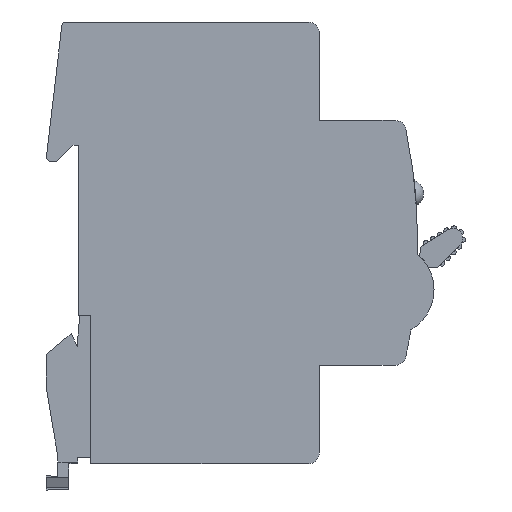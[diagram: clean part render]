
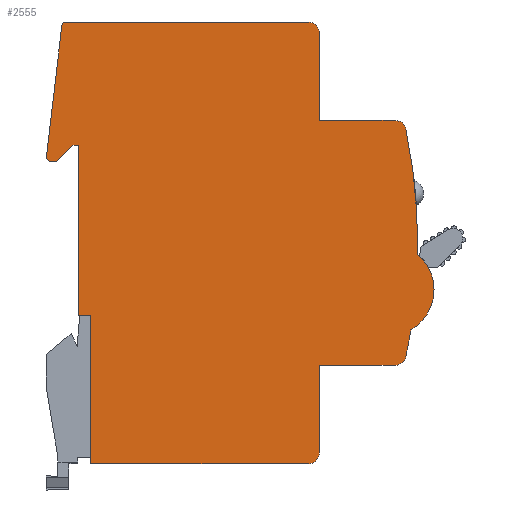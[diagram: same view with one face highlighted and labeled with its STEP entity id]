
A CAD part, left-side view. The second image highlights one B-rep face of the part: STEP entity #2555.
In plain terms, the highlighted planar face has unit normal (-1, 0, 0).
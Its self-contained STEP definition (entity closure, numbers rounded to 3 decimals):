
#92=CIRCLE('',#2799,8.5);
#116=CIRCLE('',#2864,0.8);
#118=CIRCLE('',#2868,0.8);
#120=CIRCLE('',#2878,2.);
#122=CIRCLE('',#2883,2.);
#124=CIRCLE('',#2886,101.602);
#125=CIRCLE('',#2887,101.602);
#127=CIRCLE('',#2890,2.);
#129=CIRCLE('',#2895,2.);
#312=FACE_OUTER_BOUND('',#478,.T.);
#478=EDGE_LOOP('',(#2095,#2096,#2097,#2098,#2099,#2100,#2101,#2102,#2103,
#2104,#2105,#2106,#2107,#2108,#2109,#2110,#2111,#2112,#2113,#2114,#2115,
#2116));
#694=LINE('',#4242,#956);
#699=LINE('',#4255,#961);
#703=LINE('',#4267,#965);
#706=LINE('',#4273,#968);
#709=LINE('',#4279,#971);
#712=LINE('',#4285,#974);
#715=LINE('',#4291,#977);
#718=LINE('',#4297,#980);
#721=LINE('',#4303,#983);
#725=LINE('',#4315,#987);
#728=LINE('',#4321,#990);
#734=LINE('',#4346,#996);
#737=LINE('',#4352,#999);
#956=VECTOR('',#3384,304.8);
#961=VECTOR('',#3397,304.8);
#965=VECTOR('',#3409,304.8);
#968=VECTOR('',#3414,304.8);
#971=VECTOR('',#3419,304.8);
#974=VECTOR('',#3424,304.8);
#977=VECTOR('',#3429,304.8);
#980=VECTOR('',#3434,304.8);
#983=VECTOR('',#3439,304.8);
#987=VECTOR('',#3451,304.8);
#990=VECTOR('',#3456,304.8);
#996=VECTOR('',#3484,304.8);
#999=VECTOR('',#3489,304.8);
#1124=VERTEX_POINT('',#3970);
#1125=VERTEX_POINT('',#3971);
#1190=VERTEX_POINT('',#4239);
#1191=VERTEX_POINT('',#4241);
#1193=VERTEX_POINT('',#4247);
#1195=VERTEX_POINT('',#4253);
#1197=VERTEX_POINT('',#4259);
#1199=VERTEX_POINT('',#4265);
#1201=VERTEX_POINT('',#4271);
#1203=VERTEX_POINT('',#4277);
#1205=VERTEX_POINT('',#4283);
#1207=VERTEX_POINT('',#4289);
#1209=VERTEX_POINT('',#4295);
#1211=VERTEX_POINT('',#4301);
#1213=VERTEX_POINT('',#4307);
#1215=VERTEX_POINT('',#4313);
#1217=VERTEX_POINT('',#4319);
#1219=VERTEX_POINT('',#4325);
#1221=VERTEX_POINT('',#4331);
#1223=VERTEX_POINT('',#4338);
#1225=VERTEX_POINT('',#4344);
#1227=VERTEX_POINT('',#4350);
#1386=EDGE_CURVE('',#1124,#1125,#92,.T.);
#1483=EDGE_CURVE('',#1191,#1190,#694,.T.);
#1487=EDGE_CURVE('',#1190,#1193,#116,.T.);
#1490=EDGE_CURVE('',#1193,#1195,#699,.T.);
#1493=EDGE_CURVE('',#1195,#1197,#118,.T.);
#1496=EDGE_CURVE('',#1197,#1199,#703,.T.);
#1499=EDGE_CURVE('',#1199,#1201,#706,.T.);
#1502=EDGE_CURVE('',#1201,#1203,#709,.T.);
#1505=EDGE_CURVE('',#1203,#1205,#712,.T.);
#1508=EDGE_CURVE('',#1205,#1207,#715,.T.);
#1511=EDGE_CURVE('',#1207,#1209,#718,.T.);
#1514=EDGE_CURVE('',#1209,#1211,#721,.T.);
#1517=EDGE_CURVE('',#1211,#1213,#120,.T.);
#1520=EDGE_CURVE('',#1213,#1215,#725,.T.);
#1523=EDGE_CURVE('',#1215,#1217,#728,.T.);
#1526=EDGE_CURVE('',#1217,#1219,#122,.T.);
#1529=EDGE_CURVE('',#1125,#1221,#124,.T.);
#1530=EDGE_CURVE('',#1219,#1124,#125,.T.);
#1533=EDGE_CURVE('',#1221,#1223,#127,.T.);
#1536=EDGE_CURVE('',#1223,#1225,#734,.T.);
#1539=EDGE_CURVE('',#1225,#1227,#737,.T.);
#1541=EDGE_CURVE('',#1227,#1191,#129,.T.);
#2095=ORIENTED_EDGE('',*,*,#1483,.T.);
#2096=ORIENTED_EDGE('',*,*,#1487,.T.);
#2097=ORIENTED_EDGE('',*,*,#1490,.T.);
#2098=ORIENTED_EDGE('',*,*,#1493,.T.);
#2099=ORIENTED_EDGE('',*,*,#1496,.T.);
#2100=ORIENTED_EDGE('',*,*,#1499,.T.);
#2101=ORIENTED_EDGE('',*,*,#1502,.T.);
#2102=ORIENTED_EDGE('',*,*,#1505,.T.);
#2103=ORIENTED_EDGE('',*,*,#1508,.T.);
#2104=ORIENTED_EDGE('',*,*,#1511,.T.);
#2105=ORIENTED_EDGE('',*,*,#1514,.T.);
#2106=ORIENTED_EDGE('',*,*,#1517,.T.);
#2107=ORIENTED_EDGE('',*,*,#1520,.T.);
#2108=ORIENTED_EDGE('',*,*,#1523,.T.);
#2109=ORIENTED_EDGE('',*,*,#1526,.T.);
#2110=ORIENTED_EDGE('',*,*,#1530,.T.);
#2111=ORIENTED_EDGE('',*,*,#1386,.T.);
#2112=ORIENTED_EDGE('',*,*,#1529,.T.);
#2113=ORIENTED_EDGE('',*,*,#1533,.T.);
#2114=ORIENTED_EDGE('',*,*,#1536,.T.);
#2115=ORIENTED_EDGE('',*,*,#1539,.T.);
#2116=ORIENTED_EDGE('',*,*,#1541,.T.);
#2418=PLANE('',#2896);
#2555=ADVANCED_FACE('',(#312),#2418,.T.);
#2799=AXIS2_PLACEMENT_3D('',#3972,#3186,#3187);
#2864=AXIS2_PLACEMENT_3D('',#4249,#3391,#3392);
#2868=AXIS2_PLACEMENT_3D('',#4261,#3403,#3404);
#2878=AXIS2_PLACEMENT_3D('',#4309,#3445,#3446);
#2883=AXIS2_PLACEMENT_3D('',#4327,#3462,#3463);
#2886=AXIS2_PLACEMENT_3D('',#4333,#3469,#3470);
#2887=AXIS2_PLACEMENT_3D('',#4334,#3471,#3472);
#2890=AXIS2_PLACEMENT_3D('',#4340,#3478,#3479);
#2895=AXIS2_PLACEMENT_3D('',#4355,#3494,#3495);
#2896=AXIS2_PLACEMENT_3D('',#4356,#3496,#3497);
#3186=DIRECTION('center_axis',(-1.,0.,0.));
#3187=DIRECTION('ref_axis',(0.,-1.,0.));
#3384=DIRECTION('',(0.,1.,0.));
#3391=DIRECTION('center_axis',(-1.,0.,0.));
#3392=DIRECTION('ref_axis',(0.,-1.,0.));
#3397=DIRECTION('',(0.,0.117,-0.993));
#3403=DIRECTION('center_axis',(-1.,0.,0.));
#3404=DIRECTION('ref_axis',(0.,-1.,0.));
#3409=DIRECTION('',(0.,-1.,0.));
#3414=DIRECTION('',(0.,-0.707,0.707));
#3419=DIRECTION('',(0.,-1.,0.));
#3424=DIRECTION('',(0.,0.,-1.));
#3429=DIRECTION('',(0.,-1.,0.));
#3434=DIRECTION('',(0.,0.,-1.));
#3439=DIRECTION('',(0.,-1.,0.));
#3445=DIRECTION('center_axis',(-1.,0.,0.));
#3446=DIRECTION('ref_axis',(0.,-1.,0.));
#3451=DIRECTION('',(0.,0.,1.));
#3456=DIRECTION('',(0.,-1.,0.));
#3462=DIRECTION('center_axis',(-1.,0.,0.));
#3463=DIRECTION('ref_axis',(0.,-1.,0.));
#3469=DIRECTION('center_axis',(-1.,0.,0.));
#3470=DIRECTION('ref_axis',(0.,-1.,0.));
#3471=DIRECTION('center_axis',(-1.,0.,0.));
#3472=DIRECTION('ref_axis',(0.,-1.,0.));
#3478=DIRECTION('center_axis',(-1.,0.,0.));
#3479=DIRECTION('ref_axis',(0.,-1.,0.));
#3484=DIRECTION('',(0.,1.,0.));
#3489=DIRECTION('',(0.,0.,1.));
#3494=DIRECTION('center_axis',(-1.,0.,0.));
#3495=DIRECTION('ref_axis',(0.,-1.,0.));
#3496=DIRECTION('center_axis',(-1.,0.,0.));
#3497=DIRECTION('ref_axis',(0.,0.,1.));
#3970=CARTESIAN_POINT('',(282.2,689.256,-15.977));
#3971=CARTESIAN_POINT('',(282.2,688.021,-2.107));
#3972=CARTESIAN_POINT('Origin',(282.2,693.495,-8.61));
#4239=CARTESIAN_POINT('',(282.2,752.289,40.35));
#4241=CARTESIAN_POINT('',(282.2,708.,40.35));
#4242=CARTESIAN_POINT('',(282.2,708.,40.35));
#4247=CARTESIAN_POINT('',(282.2,753.083,39.643));
#4249=CARTESIAN_POINT('Origin',(282.2,752.289,39.55));
#4253=CARTESIAN_POINT('',(282.2,755.895,15.743));
#4255=CARTESIAN_POINT('',(282.2,753.083,39.643));
#4259=CARTESIAN_POINT('',(282.2,755.1,14.85));
#4261=CARTESIAN_POINT('Origin',(282.2,755.1,15.65));
#4265=CARTESIAN_POINT('',(282.2,754.,14.85));
#4267=CARTESIAN_POINT('',(282.2,755.1,14.85));
#4271=CARTESIAN_POINT('',(282.2,751.05,17.8));
#4273=CARTESIAN_POINT('',(282.2,754.,14.85));
#4277=CARTESIAN_POINT('',(282.2,750.,17.8));
#4279=CARTESIAN_POINT('',(282.2,751.05,17.8));
#4283=CARTESIAN_POINT('',(282.2,750.,-13.35));
#4285=CARTESIAN_POINT('',(282.2,750.,17.8));
#4289=CARTESIAN_POINT('',(282.2,747.8,-13.35));
#4291=CARTESIAN_POINT('',(282.2,750.,-13.35));
#4295=CARTESIAN_POINT('',(282.2,747.8,-40.45));
#4297=CARTESIAN_POINT('',(282.2,747.8,-13.35));
#4301=CARTESIAN_POINT('',(282.2,708.,-40.45));
#4303=CARTESIAN_POINT('',(282.2,747.8,-40.45));
#4307=CARTESIAN_POINT('',(282.2,706.,-38.45));
#4309=CARTESIAN_POINT('Origin',(282.2,708.,-38.45));
#4313=CARTESIAN_POINT('',(282.2,706.,-22.45));
#4315=CARTESIAN_POINT('',(282.2,706.,-38.45));
#4319=CARTESIAN_POINT('',(282.2,692.111,-22.45));
#4321=CARTESIAN_POINT('',(282.2,706.,-22.45));
#4325=CARTESIAN_POINT('',(282.2,690.154,-20.86));
#4327=CARTESIAN_POINT('Origin',(282.2,692.111,-20.45));
#4331=CARTESIAN_POINT('',(282.2,690.154,20.76));
#4333=CARTESIAN_POINT('Origin',(282.2,789.602,-0.05));
#4334=CARTESIAN_POINT('Origin',(282.2,789.602,-0.05));
#4338=CARTESIAN_POINT('',(282.2,692.111,22.35));
#4340=CARTESIAN_POINT('Origin',(282.2,692.111,20.35));
#4344=CARTESIAN_POINT('',(282.2,706.,22.35));
#4346=CARTESIAN_POINT('',(282.2,692.111,22.35));
#4350=CARTESIAN_POINT('',(282.2,706.,38.35));
#4352=CARTESIAN_POINT('',(282.2,706.,22.35));
#4355=CARTESIAN_POINT('Origin',(282.2,708.,38.35));
#4356=CARTESIAN_POINT('Origin',(282.2,706.,38.35));
